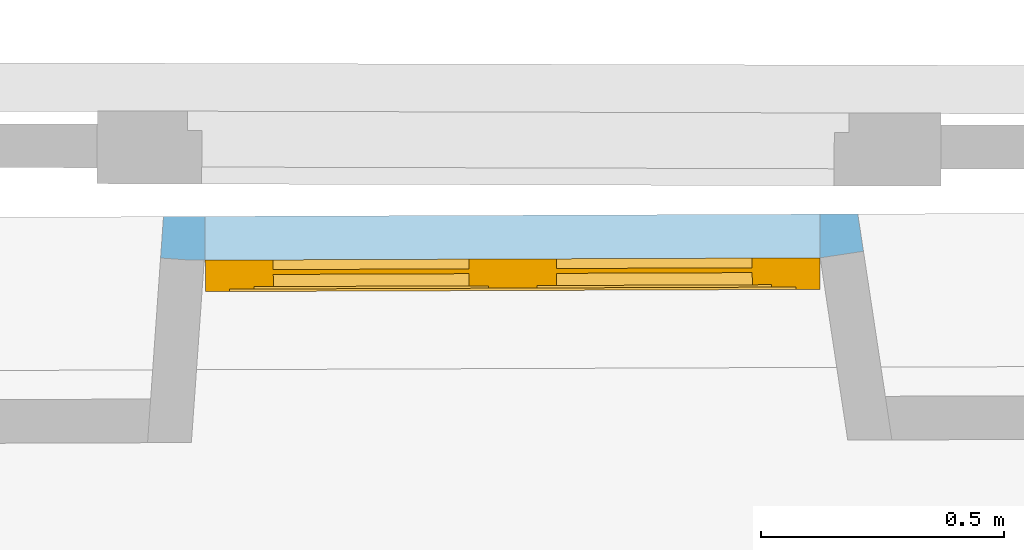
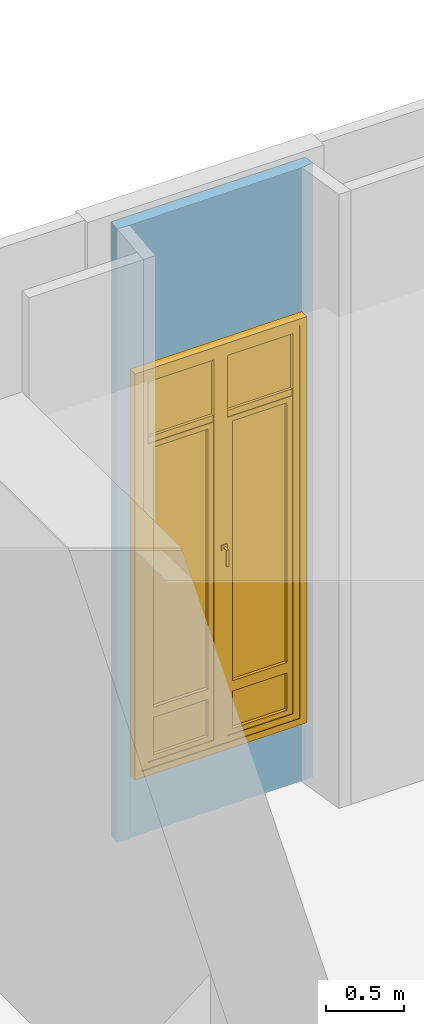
# One storey, part 66 of 97: 1 window, 2 openings, plus 1 element that does not belong to this part.
"""IFC2X3 building model written with IfcOpenShell, lengths in centimetres."""

from ifc_helpers import new_model, entity, si_unit, converted_unit, direction, frame, origin, origin_with_axes, place, context, subcontext, project, spatial, polyline, outline, extrude, faceted_brep, shape, source, transform, mapped, material, material_list, layer, layer_set, layer_usage, type_object, element, fill, save


model = new_model("IFC2X3")

# Units and contexts
model_context = context("Model", 3, precision=0.0001, world=origin(), true_north=direction((0.225632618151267, 0.974212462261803, 0.0)))
body_context = subcontext(model_context, "Body", "Model", "MODEL_VIEW")
footprint_context = subcontext(model_context, "FootPrint", "Model", "MODEL_VIEW")
profile_context = subcontext(model_context, "Profile", "Model", "MODEL_VIEW")
ifc_project = project(units=[si_unit("LENGTHUNIT", "METRE", prefix="CENTI"), si_unit("AREAUNIT", "SQUARE_METRE", prefix="CENTI"), si_unit("VOLUMEUNIT", "CUBIC_METRE", prefix="CENTI"), converted_unit("PLANEANGLEUNIT", "DEGREE", entity("IfcRatioMeasure", 0.0174532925), si_unit("PLANEANGLEUNIT", "RADIAN"), dimensions=[0, 0, 0, 0, 0, 0, 0])], contexts=[model_context])

# Site, building, storey
site_placement = place(None, origin_with_axes())
site = spatial("IfcSite", under=ifc_project, at=site_placement, Name="Default Site", CompositionType="ELEMENT")
building_placement = place(site_placement, origin_with_axes())
building = spatial("IfcBuilding", under=site, at=building_placement, Name="Default Building", CompositionType="ELEMENT")
storey_placement = place(building_placement, origin_with_axes())
storey = spatial("IfcBuildingStorey", under=building, at=storey_placement, Name="Rez-de-chaussée", CompositionType="ELEMENT", Elevation=0.0)

# Wall, openings, window
ifc_material_1 = material(Name="<aucun>")
ifc_layer = layer(ifc_material_1, 9.0)
ifc_layer_set = layer_set([ifc_layer], Name="default")
ifc_layer_usage = layer_usage(ifc_layer_set, "AXIS2", "POSITIVE", -4.5)
wall_type = type_object("IfcWallType", Name="default 90", PredefinedType="NOTDEFINED", material=ifc_layer_set)
wall_placement = place(storey_placement, frame((-572.815519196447, 586.72315028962, 0.0128503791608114), z_axis=(0.0, 0.0, 1.0), x_axis=(0.999993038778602, 0.00373127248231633, 0.0)))
wall = element("IfcWallStandardCase", 1, at=wall_placement, inside=storey, type_object=wall_type, material=ifc_layer_usage, Name="Enveloppe 668711", context=body_context, shape_type="SweptSolid", body=[
    extrude(outline(polyline([(-4.81159467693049, -4.03329353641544), (1.48787861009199, -4.50000000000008), (131.100801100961, -4.49999999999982), (140.004937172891, -3.18990045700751), (138.873492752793, 4.50000000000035), (-4.17846649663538, 4.49999999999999), (-4.81159467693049, -4.03329353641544)])), origin_with_axes(), (0.0, 0.0, 1.0), 477.795358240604),
])
opening_1_placement = place(wall_placement, frame((4.39011683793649, -1.13686837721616e-13, 8.32684615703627e-14), z_axis=(0.0, 0.0, 1.0), x_axis=(-1.0, -2.23172175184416e-15, 0.0)))
cartesian_point_1 = entity("IfcCartesianPoint", [0.0, -8.88178419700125e-14, 48.5])
cartesian_point_2 = entity("IfcCartesianPoint", [-129.157241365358, -4.49999999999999])
element("IfcOpeningElement", 2, at=opening_1_placement, cuts=wall, Name="Baie 30038", ObjectType="Recess", shapes=[
    shape(body_context, "Body", "Brep", [faceted_brep([(-9.45402627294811e-06, 24.5000070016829, -4.62691007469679e-10), (-129.157259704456, 24.5000070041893, -4.62691007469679e-10), (-129.157259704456, 24.5000070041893, 48.4999988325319), (-9.45402627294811e-06, 24.5000070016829, 48.4999988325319), (-9.45443379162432e-06, 3.50000009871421, 48.4999988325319), (-9.45443379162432e-06, 3.50000009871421, -4.62691007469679e-10), (-2.18569054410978e-05, 3.50000009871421, -4.62691007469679e-10), (-129.157224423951, 3.49998149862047, -4.62691007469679e-10), (-129.157259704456, 24.49998857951, -4.62691007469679e-10), (-129.157259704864, 3.49998149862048, -4.62691007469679e-10), (-129.157259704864, 3.49998149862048, 48.4999988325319), (-129.157259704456, 24.49998857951, 48.4999988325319), (-129.157224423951, 3.49998149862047, 48.4999988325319), (-2.18569054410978e-05, 3.50000009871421, 48.4999988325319), (-2.18569054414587e-05, 3.4999814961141, -4.62691007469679e-10), (-2.18569054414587e-05, 3.4999814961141, 48.4999988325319)], [[[0, 1, 2, 3]], [[3, 4, 5, 0]], [[0, 6, 7, 8]], [[8, 9, 10, 11]], [[11, 12, 13, 3]], [[12, 7, 14, 15]]])]),
    shape(profile_context, "Profile", "GeometricCurveSet", [entity("IfcGeometricCurveSet", [entity("IfcPolyline", [cartesian_point_1, entity("IfcCartesianPoint", [0.0, -8.88178419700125e-14, -5.42101086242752e-18]), entity("IfcCartesianPoint", [-129.157241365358, 0.0, -5.42101086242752e-18]), entity("IfcCartesianPoint", [-129.157241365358, 0.0, 48.5]), cartesian_point_1])])]),
    shape(footprint_context, "FootPrint", "GeometricCurveSet", [entity("IfcGeometricCurveSet", [entity("IfcPolyline", [cartesian_point_2, entity("IfcCartesianPoint", [8.88178419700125e-14, -4.50000000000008]), entity("IfcCartesianPoint", [8.88178419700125e-14, 4.49999999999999]), entity("IfcCartesianPoint", [-129.157241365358, 4.50000000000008]), cartesian_point_2])])]),
])
opening_2_placement = place(wall_placement, frame((4.39011683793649, -1.13686837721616e-13, 49.8226471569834), z_axis=(0.0, 0.0, 1.0), x_axis=(-1.0, -2.23172175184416e-15, 0.0)))
cartesian_point_3 = entity("IfcCartesianPoint", [0.0, -8.88178419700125e-14, 316.0])
cartesian_point_4 = entity("IfcCartesianPoint", [-126.68846796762, -4.50000000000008])
opening_2 = element("IfcOpeningElement", 3, at=opening_2_placement, cuts=wall, Name="4294966448_11", ObjectType="Opening", shapes=[
    shape(body_context, "Body", "SweptSolid", [extrude(outline(polyline([(0.0, 316.0), (0.0, 0.0), (126.68846796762, 0.0), (126.68846796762, 316.0), (0.0, 316.0)])), frame((0.0, -14.5, 0.0), z_axis=(0.0, 1.0, 0.0), x_axis=(-1.0, 0.0, 0.0)), (0.0, 0.0, 1.0), 29.0)]),
    shape(profile_context, "Profile", "GeometricCurveSet", [entity("IfcGeometricCurveSet", [entity("IfcPolyline", [cartesian_point_3, entity("IfcCartesianPoint", [0.0, -8.88178419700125e-14, 0.0]), entity("IfcCartesianPoint", [-126.68846796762, 0.0, 0.0]), entity("IfcCartesianPoint", [-126.68846796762, 0.0, 316.0]), cartesian_point_3])])]),
    shape(footprint_context, "FootPrint", "GeometricCurveSet", [entity("IfcGeometricCurveSet", [entity("IfcPolyline", [cartesian_point_4, entity("IfcCartesianPoint", [0.0, -4.50000000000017]), entity("IfcCartesianPoint", [0.0, 4.4999999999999]), entity("IfcCartesianPoint", [-126.68846796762, 4.49999999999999]), cartesian_point_4])])]),
])
ifc_material_2 = material(Name="Transparent")
ifc_material_3 = material(Name="Blanc trafic")
ifc_material_4 = material(Name="Aluminium satiné")
ifc_material_5 = material(Name="Blanc trafic")
ifc_material_list = material_list([ifc_material_2, ifc_material_3, ifc_material_4, ifc_material_5])
window_style = type_object("IfcWindowStyle", Name="FN[R] 2VB[2V] MM", ConstructionType="NOTDEFINED", OperationType="NOTDEFINED", ParameterTakesPrecedence=False, Sizeable=False, material=ifc_material_list)
shared_shape = source(origin_with_axes(), body_context, "Body", "Brep", [
    faceted_brep([(-58.3442330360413, 310.999989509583, -3.99999991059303), (-58.3442330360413, 310.999989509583, 3.99999991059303), (-58.3442330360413, 5.00000007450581, 3.99999991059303), (-58.3442330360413, 5.00000007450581, -3.99999991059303), (-63.3442342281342, 316.000008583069, 3.99999991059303), (-63.3442342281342, 5.55111512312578e-15, 3.99999991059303), (-63.3442342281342, 316.000008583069, -3.99999991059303), (-63.3442342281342, 5.55111512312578e-15, -3.99999991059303), (58.3442330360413, 5.00000007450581, 3.99999991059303), (58.3442330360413, 5.00000007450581, -3.99999991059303), (63.3442342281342, 5.55111512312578e-15, 3.99999991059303), (63.3442342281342, 5.55111512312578e-15, -3.99999991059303), (58.3442330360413, 310.999989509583, 3.99999991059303), (58.3442330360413, 310.999989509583, -3.99999991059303), (63.3442342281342, 316.000008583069, 3.99999991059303), (63.3442342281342, 316.000008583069, -3.99999991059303)], [[[0, 1, 2, 3]], [[1, 4, 5, 2]], [[4, 6, 7, 5]], [[6, 0, 3, 7]], [[3, 2, 8, 9]], [[2, 5, 10, 8]], [[5, 7, 11, 10]], [[7, 3, 9, 11]], [[9, 8, 12, 13]], [[8, 10, 14, 12]], [[10, 11, 15, 14]], [[11, 9, 13, 15]], [[13, 12, 1, 0]], [[12, 14, 4, 1]], [[14, 15, 6, 4]], [[15, 13, 0, 6]]]),
    faceted_brep([(-54.3442368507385, 306.99999332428, -3.50000001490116), (-53.3442343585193, 305.999994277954, -2.49999752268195), (-53.3442343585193, 10.0000001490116, -2.49999752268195), (-54.3442368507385, 9.00000035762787, -3.50000001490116), (-53.3442318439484, 305.999994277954, -2.5000000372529), (-53.3442318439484, 305.999994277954, 3.50000001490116), (-53.3442318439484, 10.0000001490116, 3.50000001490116), (-53.3442318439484, 10.0000001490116, -2.5000000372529), (-58.3442330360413, 310.999989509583, 3.50000001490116), (-58.3442330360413, 5.00000007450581, 3.50000001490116), (-58.3442330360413, 310.999989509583, -3.50000001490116), (-58.3442330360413, 5.00000007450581, -3.50000001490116), (-53.3442318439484, 10.0000002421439, -2.50000013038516), (-5.00000007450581, 10.0000002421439, -2.50000013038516), (-3.99999991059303, 9.00000035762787, -3.50000001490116), (-5.00000007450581, 10.0000001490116, 3.50000001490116), (-5.00000007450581, 10.0000001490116, -2.5000000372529), (-5.55111512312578e-14, 5.00000007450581, 3.50000001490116), (-5.55111512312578e-14, 5.00000007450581, -3.50000001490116), (-4.99999998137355, 10.0000001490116, -2.49999994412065), (-4.99999998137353, 305.999994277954, -2.49999994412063), (-3.99999991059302, 306.99999332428, -3.50000001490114), (-5.00000007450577, 305.999994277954, 3.50000001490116), (-5.00000007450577, 305.999994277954, -2.5000000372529), (-3.33066907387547e-14, 310.999989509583, 3.50000001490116), (-5.00000007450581, 305.999994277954, 3.50000001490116), (-3.33066908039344e-14, 310.999989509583, -3.50000001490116), (-3.33066908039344e-14, 310.999989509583, 3.50000001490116), (-3.99999991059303, 306.99999332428, -3.50000001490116), (-3.33066907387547e-14, 310.999989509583, -3.50000001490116), (-5.00000007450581, 305.999993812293, -2.5000005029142), (-53.3442318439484, 305.999993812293, -2.5000005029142), (-5.00000007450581, 305.999994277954, -2.5000000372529)], [[[0, 1, 2, 3]], [[4, 5, 6, 7]], [[5, 8, 9, 6]], [[8, 10, 11, 9]], [[10, 0, 3, 11]], [[3, 12, 13, 14]], [[7, 6, 15, 16]], [[6, 9, 17, 15]], [[9, 11, 18, 17]], [[11, 3, 14, 18]], [[14, 19, 20, 21]], [[16, 15, 22, 23]], [[15, 17, 24, 25]], [[17, 18, 26, 27]], [[18, 14, 28, 29]], [[28, 30, 31, 0]], [[32, 25, 5, 4]], [[25, 24, 8, 5]], [[24, 29, 10, 8]], [[29, 28, 0, 10]]]),
    faceted_brep([(-5.00000007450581, 305.999994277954, -0.499999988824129), (-5.00000007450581, 262.350010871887, -0.499999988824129), (-53.3442318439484, 262.350010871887, -0.499999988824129), (-53.3442318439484, 305.999994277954, -0.499999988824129), (-53.3442318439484, 305.999994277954, 0.499999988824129), (-53.3442318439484, 262.350010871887, 0.499999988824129), (-5.00000007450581, 262.350010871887, 0.499999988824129), (-5.00000007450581, 305.999994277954, 0.499999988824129)], [[[0, 1, 2, 3]], [[4, 5, 6, 7]], [[3, 2, 5, 4]], [[2, 1, 6, 5]], [[1, 0, 7, 6]], [[0, 3, 4, 7]]]),
    faceted_brep([(-5.00000007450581, 257.349991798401, 2.5000000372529), (-5.00000007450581, 257.349991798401, -2.5000000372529), (-5.00000007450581, 262.350010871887, -2.5000000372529), (-5.00000007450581, 262.350010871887, 2.5000000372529), (-53.3442318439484, 262.350010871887, 2.5000000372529), (-53.3442318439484, 262.350010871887, -2.5000000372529), (-53.3442318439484, 257.349991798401, -2.5000000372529), (-53.3442318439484, 257.349991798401, 2.5000000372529)], [[[0, 1, 2, 3]], [[4, 5, 6, 7]], [[3, 2, 5, 4]], [[2, 1, 6, 5]], [[1, 0, 7, 6]], [[0, 3, 4, 7]]]),
    faceted_brep([(-49.3442326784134, 253.349995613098, -2.99999993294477), (-49.3442326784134, 253.349995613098, 2.99999993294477), (-49.3442326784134, 51.1025011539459, 2.99999993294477), (-49.3442326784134, 51.1025011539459, -2.99999993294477), (-53.3442318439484, 257.349991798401, 2.99999993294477), (-53.3442318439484, 47.1024990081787, 2.99999993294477), (-53.3442318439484, 257.349991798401, -2.99999993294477), (-53.3442318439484, 47.1024990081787, -2.99999993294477), (-9.00000035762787, 51.1025011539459, 2.99999993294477), (-9.00000035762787, 51.1025011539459, -2.99999993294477), (-5.00000007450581, 47.1024990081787, 2.99999993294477), (-5.00000007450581, 47.1024990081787, -2.99999993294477), (-9.00000035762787, 253.349995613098, 2.99999993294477), (-9.00000035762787, 253.349995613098, -2.99999993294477), (-5.00000007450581, 257.349991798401, 2.99999993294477), (-5.0000000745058, 257.349991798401, -2.99999993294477), (-5.0000000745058, 257.349991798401, 2.99999993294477), (-5.00000007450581, 257.349991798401, -2.99999993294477)], [[[0, 1, 2, 3]], [[1, 4, 5, 2]], [[4, 6, 7, 5]], [[6, 0, 3, 7]], [[3, 2, 8, 9]], [[2, 5, 10, 8]], [[5, 7, 11, 10]], [[7, 3, 9, 11]], [[9, 8, 12, 13]], [[8, 10, 14, 12]], [[10, 11, 15, 16]], [[11, 9, 13, 17]], [[13, 12, 1, 0]], [[12, 14, 4, 1]], [[14, 17, 6, 4]], [[17, 13, 0, 6]]]),
    faceted_brep([(-9.00000035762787, 253.349995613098, -0.499999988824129), (-9.00000035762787, 51.1025011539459, -0.499999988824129), (-49.3442326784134, 51.1025011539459, -0.499999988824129), (-49.3442326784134, 253.349995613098, -0.499999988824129), (-49.3442326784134, 253.349995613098, 0.499999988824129), (-49.3442326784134, 51.1025011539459, 0.499999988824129), (-9.00000035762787, 51.1025011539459, 0.499999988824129), (-9.00000035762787, 253.349995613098, 0.499999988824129), (-9.00000035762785, 253.349995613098, -0.499999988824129), (-9.00000035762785, 253.349995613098, 0.499999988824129)], [[[0, 1, 2, 3]], [[4, 5, 6, 7]], [[3, 2, 5, 4]], [[2, 1, 6, 5]], [[1, 8, 9, 6]], [[0, 3, 4, 7]]]),
    faceted_brep([(-49.3442326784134, 43.1024998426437, -2.99999993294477), (-49.3442326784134, 43.1024998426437, 2.99999993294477), (-49.3442326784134, 14.0000000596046, 2.99999993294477), (-49.3442326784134, 14.0000000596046, -2.99999993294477), (-53.3442318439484, 47.1024990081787, 2.99999993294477), (-53.3442318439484, 10.0000001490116, 2.99999993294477), (-53.3442318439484, 47.1024990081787, -2.99999993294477), (-53.3442318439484, 10.0000001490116, -2.99999993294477), (-9.00000035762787, 14.0000000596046, 2.99999993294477), (-9.00000035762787, 14.0000000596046, -2.99999993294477), (-5.00000007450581, 10.0000001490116, 2.99999993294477), (-5.00000007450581, 10.0000001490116, -2.99999993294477), (-9.00000035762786, 43.1024998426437, 2.99999993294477), (-9.00000035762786, 43.1024998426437, -2.99999993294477), (-5.00000007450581, 47.1024990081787, 2.99999993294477), (-9.00000035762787, 43.1024998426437, 2.99999993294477), (-5.0000000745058, 47.1024990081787, -2.99999993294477), (-5.0000000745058, 47.1024990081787, 2.99999993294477), (-9.00000035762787, 43.1024998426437, -2.99999993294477), (-5.00000007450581, 47.1024990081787, -2.99999993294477)], [[[0, 1, 2, 3]], [[1, 4, 5, 2]], [[4, 6, 7, 5]], [[6, 0, 3, 7]], [[3, 2, 8, 9]], [[2, 5, 10, 8]], [[5, 7, 11, 10]], [[7, 3, 9, 11]], [[9, 8, 12, 13]], [[8, 10, 14, 15]], [[10, 11, 16, 17]], [[11, 9, 18, 19]], [[18, 15, 1, 0]], [[15, 14, 4, 1]], [[14, 19, 6, 4]], [[19, 18, 0, 6]]]),
    faceted_brep([(-9.00000035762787, 43.1024998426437, -0.499999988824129), (-9.00000035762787, 14.0000000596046, -0.499999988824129), (-49.3442326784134, 14.0000000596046, -0.499999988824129), (-49.3442326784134, 43.1024998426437, -0.499999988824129), (-49.3442326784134, 43.1024998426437, 0.499999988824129), (-49.3442326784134, 14.0000000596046, 0.499999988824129), (-9.00000035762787, 14.0000000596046, 0.499999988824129), (-9.00000035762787, 43.1024998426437, 0.499999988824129), (-9.00000035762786, 43.1024998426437, -0.499999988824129), (-9.00000035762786, 43.1024998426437, 0.499999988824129)], [[[0, 1, 2, 3]], [[4, 5, 6, 7]], [[3, 2, 5, 4]], [[2, 1, 6, 5]], [[1, 8, 9, 6]], [[0, 3, 4, 7]]]),
    faceted_brep([(3.99999991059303, 306.99999332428, -3.50000001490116), (4.99999998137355, 305.999994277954, -2.49999994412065), (4.99999998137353, 10.0000001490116, -2.49999994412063), (3.99999991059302, 9.00000035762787, -3.50000001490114), (5.00000007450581, 305.999994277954, -2.5000000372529), (5.00000007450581, 305.999994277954, 3.50000001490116), (5.00000007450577, 10.0000001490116, 3.50000001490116), (5.00000007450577, 10.0000001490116, -2.5000000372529), (-3.33066907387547e-14, 310.999989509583, 3.50000001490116), (-5.55111512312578e-14, 5.00000007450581, 3.50000001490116), (5.00000007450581, 10.0000001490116, 3.50000001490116), (-3.33066907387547e-14, 310.999989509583, -3.50000001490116), (-5.55111511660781e-14, 5.00000007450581, -3.50000001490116), (-5.55111511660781e-14, 5.00000007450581, 3.50000001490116), (3.99999991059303, 9.00000035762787, -3.50000001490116), (-5.55111512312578e-14, 5.00000007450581, -3.50000001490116), (5.00000007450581, 10.0000002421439, -2.50000013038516), (53.3442318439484, 10.0000002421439, -2.50000013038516), (54.3442368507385, 9.00000035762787, -3.50000001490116), (5.00000007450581, 10.0000001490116, -2.5000000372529), (53.3442318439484, 10.0000001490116, 3.50000001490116), (53.3442318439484, 10.0000001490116, -2.5000000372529), (58.3442330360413, 5.00000007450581, 3.50000001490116), (58.3442330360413, 5.00000007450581, -3.50000001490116), (53.3442343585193, 10.0000001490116, -2.49999752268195), (53.3442343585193, 305.999994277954, -2.49999752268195), (54.3442368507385, 306.99999332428, -3.50000001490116), (53.3442318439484, 305.999994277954, 3.50000001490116), (53.3442318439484, 305.999994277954, -2.5000000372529), (58.3442330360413, 310.999989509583, 3.50000001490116), (58.3442330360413, 310.999989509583, -3.50000001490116), (53.3442318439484, 305.999993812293, -2.5000005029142), (5.00000007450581, 305.999993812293, -2.50000050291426), (3.99999991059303, 306.99999332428, -3.50000001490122)], [[[0, 1, 2, 3]], [[4, 5, 6, 7]], [[5, 8, 9, 10]], [[8, 11, 12, 13]], [[11, 0, 14, 15]], [[14, 16, 17, 18]], [[19, 10, 20, 21]], [[10, 9, 22, 20]], [[9, 15, 23, 22]], [[15, 14, 18, 23]], [[18, 24, 25, 26]], [[21, 20, 27, 28]], [[20, 22, 29, 27]], [[22, 23, 30, 29]], [[23, 18, 26, 30]], [[26, 31, 32, 33]], [[28, 27, 5, 4]], [[27, 29, 8, 5]], [[29, 30, 11, 8]], [[30, 26, 0, 11]]]),
    faceted_brep([(4.50000017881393, 160.000002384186, 3.50000001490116), (4.50000017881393, 155.999994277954, 3.50000001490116), (0.499999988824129, 155.999994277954, 3.50000001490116), (0.499999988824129, 160.000002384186, 3.50000001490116), (0.499999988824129, 160.000002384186, 4.30000014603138), (0.499999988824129, 155.999994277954, 4.30000014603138), (4.50000017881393, 155.999994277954, 4.30000014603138), (4.50000017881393, 160.000002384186, 4.30000014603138)], [[[0, 1, 2, 3]], [[4, 5, 6, 7]], [[3, 2, 5, 4]], [[2, 1, 6, 5]], [[1, 0, 7, 6]], [[0, 3, 4, 7]]]),
    faceted_brep([(3.24999988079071, 158.500003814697, 4.30000014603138), (3.24999988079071, 157.500004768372, 4.30000014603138), (1.75000000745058, 157.500004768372, 4.30000014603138), (1.75000000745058, 158.500003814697, 4.30000014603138), (1.75000000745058, 158.500003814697, 8.29999968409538), (1.75000000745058, 157.500004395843, 7.30000026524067), (3.24999988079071, 157.500004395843, 7.30000026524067), (3.24999988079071, 158.500003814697, 8.29999968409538), (1.75000000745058, 157.500004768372, 7.29999989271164), (3.24999988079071, 157.500004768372, 7.29999989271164)], [[[0, 1, 2, 3]], [[4, 5, 6, 7]], [[3, 2, 8, 4]], [[2, 1, 9, 8]], [[1, 0, 7, 9]], [[0, 3, 4, 7]]]),
    faceted_brep([(3.24999988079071, 158.500003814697, 8.29999968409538), (3.24999988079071, 157.500004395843, 7.30000026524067), (1.75000000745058, 157.500004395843, 7.30000026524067), (1.75000000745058, 158.500003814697, 8.29999968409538), (1.75000000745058, 145.500004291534, 8.29999968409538), (1.75000000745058, 145.500004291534, 7.29999989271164), (3.24999988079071, 145.500004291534, 7.29999989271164), (3.24999988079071, 145.500004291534, 8.29999968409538), (1.75000000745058, 157.500004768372, 7.29999989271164), (3.24999988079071, 157.500004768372, 7.29999989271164)], [[[0, 1, 2, 3]], [[4, 5, 6, 7]], [[3, 8, 5, 4]], [[8, 9, 6, 5]], [[9, 0, 7, 6]], [[0, 3, 4, 7]]]),
    faceted_brep([(53.3442318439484, 305.999994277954, -0.499999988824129), (53.3442318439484, 262.350010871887, -0.499999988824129), (5.00000007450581, 262.350010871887, -0.499999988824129), (5.00000007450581, 305.999994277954, -0.499999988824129), (5.00000007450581, 305.999994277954, 0.499999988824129), (5.00000007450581, 262.350010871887, 0.499999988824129), (53.3442318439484, 262.350010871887, 0.499999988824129), (53.3442318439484, 305.999994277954, 0.499999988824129), (5.0000000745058, 262.350010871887, -0.499999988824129), (5.0000000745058, 262.350010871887, 0.499999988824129)], [[[0, 1, 2, 3]], [[4, 5, 6, 7]], [[3, 8, 9, 4]], [[2, 1, 6, 5]], [[1, 0, 7, 6]], [[0, 3, 4, 7]]]),
    faceted_brep([(53.3442318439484, 257.349991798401, 2.5000000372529), (53.3442318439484, 257.349991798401, -2.5000000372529), (53.3442318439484, 262.350010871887, -2.5000000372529), (53.3442318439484, 262.350010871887, 2.5000000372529), (5.00000007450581, 262.350010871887, 2.5000000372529), (5.00000007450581, 262.350010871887, -2.5000000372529), (5.00000007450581, 257.349991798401, -2.5000000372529), (5.00000007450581, 257.349991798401, 2.5000000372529)], [[[0, 1, 2, 3]], [[4, 5, 6, 7]], [[3, 2, 5, 4]], [[2, 1, 6, 5]], [[1, 0, 7, 6]], [[0, 3, 4, 7]]]),
    faceted_brep([(9.00000035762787, 253.349995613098, -2.99999993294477), (9.00000035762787, 253.349995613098, 2.99999993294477), (9.00000035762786, 51.1025011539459, 2.99999993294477), (9.00000035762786, 51.1025011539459, -2.99999993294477), (5.00000007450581, 257.349991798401, 2.99999993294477), (5.00000007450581, 47.1024990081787, 2.99999993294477), (9.00000035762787, 51.1025011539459, 2.99999993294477), (5.00000007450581, 257.349991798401, -2.99999993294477), (5.0000000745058, 47.1024990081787, -2.99999993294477), (5.0000000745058, 47.1024990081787, 2.99999993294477), (9.00000035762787, 51.1025011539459, -2.99999993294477), (5.00000007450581, 47.1024990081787, -2.99999993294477), (49.3442326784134, 51.1025011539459, 2.99999993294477), (49.3442326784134, 51.1025011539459, -2.99999993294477), (53.3442318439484, 47.1024990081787, 2.99999993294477), (53.3442318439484, 47.1024990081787, -2.99999993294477), (49.3442326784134, 253.349995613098, 2.99999993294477), (49.3442326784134, 253.349995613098, -2.99999993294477), (53.3442318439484, 257.349991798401, 2.99999993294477), (53.3442318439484, 257.349991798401, -2.99999993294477)], [[[0, 1, 2, 3]], [[1, 4, 5, 6]], [[4, 7, 8, 9]], [[7, 0, 10, 11]], [[10, 6, 12, 13]], [[6, 5, 14, 12]], [[5, 11, 15, 14]], [[11, 10, 13, 15]], [[13, 12, 16, 17]], [[12, 14, 18, 16]], [[14, 15, 19, 18]], [[15, 13, 17, 19]], [[17, 16, 1, 0]], [[16, 18, 4, 1]], [[18, 19, 7, 4]], [[19, 17, 0, 7]]]),
    faceted_brep([(49.3442326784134, 253.349995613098, -0.499999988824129), (49.3442326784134, 51.1025011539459, -0.499999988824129), (9.00000035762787, 51.1025011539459, -0.499999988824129), (9.00000035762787, 253.349995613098, -0.499999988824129), (9.00000035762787, 253.349995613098, 0.499999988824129), (9.00000035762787, 51.1025011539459, 0.499999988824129), (49.3442326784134, 51.1025011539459, 0.499999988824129), (49.3442326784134, 253.349995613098, 0.499999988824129), (9.00000035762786, 51.1025011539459, -0.499999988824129), (9.00000035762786, 51.1025011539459, 0.499999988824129)], [[[0, 1, 2, 3]], [[4, 5, 6, 7]], [[3, 8, 9, 4]], [[2, 1, 6, 5]], [[1, 0, 7, 6]], [[0, 3, 4, 7]]]),
    faceted_brep([(9.00000035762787, 43.1024998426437, -2.99999993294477), (9.00000035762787, 43.1024998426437, 2.99999993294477), (9.00000035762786, 14.0000000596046, 2.99999993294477), (9.00000035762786, 14.0000000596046, -2.99999993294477), (5.00000007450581, 47.1024990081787, 2.99999993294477), (5.00000007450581, 10.0000001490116, 2.99999993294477), (9.00000035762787, 14.0000000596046, 2.99999993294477), (5.00000007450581, 47.1024990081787, -2.99999993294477), (5.00000007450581, 10.0000001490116, -2.99999993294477), (9.00000035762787, 14.0000000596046, -2.99999993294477), (49.3442326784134, 14.0000000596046, 2.99999993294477), (49.3442326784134, 14.0000000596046, -2.99999993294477), (53.3442318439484, 10.0000001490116, 2.99999993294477), (53.3442318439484, 10.0000001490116, -2.99999993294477), (49.3442326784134, 43.1024998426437, 2.99999993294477), (49.3442326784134, 43.1024998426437, -2.99999993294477), (53.3442318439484, 47.1024990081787, 2.99999993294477), (53.3442318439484, 47.1024990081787, -2.99999993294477)], [[[0, 1, 2, 3]], [[1, 4, 5, 6]], [[4, 7, 8, 5]], [[7, 0, 9, 8]], [[9, 6, 10, 11]], [[6, 5, 12, 10]], [[5, 8, 13, 12]], [[8, 9, 11, 13]], [[11, 10, 14, 15]], [[10, 12, 16, 14]], [[12, 13, 17, 16]], [[13, 11, 15, 17]], [[15, 14, 1, 0]], [[14, 16, 4, 1]], [[16, 17, 7, 4]], [[17, 15, 0, 7]]]),
    faceted_brep([(49.3442326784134, 43.1024998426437, -0.499999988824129), (49.3442326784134, 14.0000000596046, -0.499999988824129), (9.00000035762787, 14.0000000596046, -0.499999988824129), (9.00000035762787, 43.1024998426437, -0.499999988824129), (9.00000035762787, 43.1024998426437, 0.499999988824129), (9.00000035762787, 14.0000000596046, 0.499999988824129), (49.3442326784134, 14.0000000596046, 0.499999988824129), (49.3442326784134, 43.1024998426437, 0.499999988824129), (9.00000035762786, 14.0000000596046, -0.499999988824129), (9.00000035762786, 14.0000000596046, 0.499999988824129)], [[[0, 1, 2, 3]], [[4, 5, 6, 7]], [[3, 8, 9, 4]], [[2, 1, 6, 5]], [[1, 0, 7, 6]], [[0, 3, 4, 7]]]),
])
window_placement = place(opening_2_placement, frame((-126.68846796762, 2.99999999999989, 0.0), z_axis=(0.0, 0.0, 1.0), x_axis=(1.0, 0.0, 0.0)))
window = element("IfcWindow", 4, at=window_placement, inside=storey, type_object=window_style, material=ifc_material_list, Name="Fenêtre 23862", OverallHeight=316.0, OverallWidth=126.68846796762, context=body_context, shape_type="MappedRepresentation", body=[
    mapped(shared_shape, transform((63.34423398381, 3.99999999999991, 0.0), x_axis=(-1.0, -4.33680868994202e-19, 0.0), y_axis=(0.0, 0.0, 1.0), z_axis=(-4.33680868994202e-19, 1.0, 0.0), scale=1.0, scale2=1.0, scale3=1.0, uniform=False)),
])
fill(opening_2, window)

save(model, "model.ifc")
